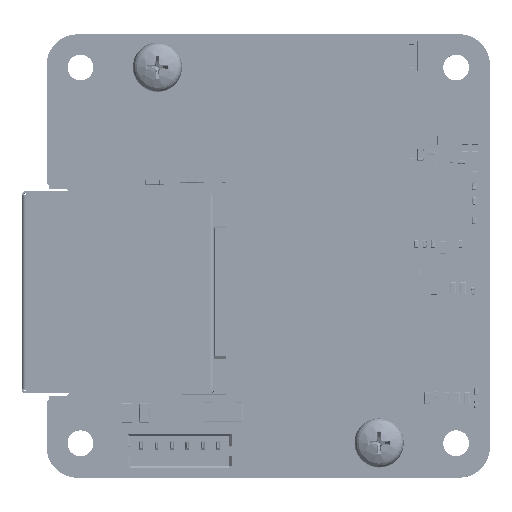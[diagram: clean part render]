
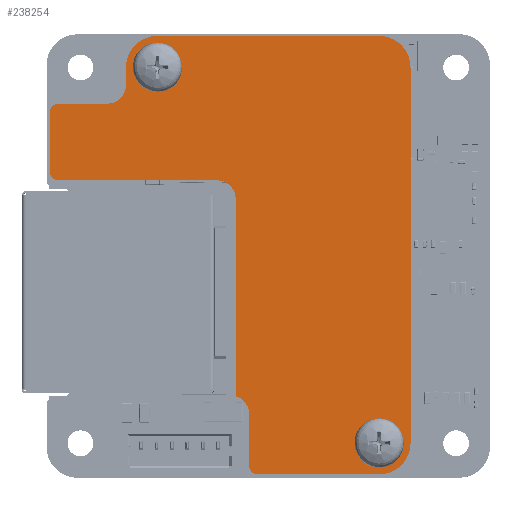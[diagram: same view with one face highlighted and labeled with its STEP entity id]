
A CAD part, top view. The second image highlights one B-rep face of the part: STEP entity #238254.
In plain terms, the highlighted planar face has unit normal (0, 0, 1).
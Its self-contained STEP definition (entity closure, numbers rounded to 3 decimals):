
#986=FACE_BOUND('',#50493,.T.);
#987=FACE_BOUND('',#50494,.T.);
#15673=CIRCLE('',#264794,0.7);
#15674=CIRCLE('',#264797,0.7);
#15675=CIRCLE('',#264800,1.499);
#15676=CIRCLE('',#264803,2.55);
#15677=CIRCLE('',#264806,2.55);
#15678=CIRCLE('',#264809,2.55);
#15679=CIRCLE('',#264812,0.7);
#15680=CIRCLE('',#264815,1.501);
#15681=CIRCLE('',#264818,1.499);
#15682=CIRCLE('',#264821,1.15);
#15683=CIRCLE('',#264823,1.15);
#35524=FACE_OUTER_BOUND('',#50492,.T.);
#50492=EDGE_LOOP('',(#202808,#202809,#202810,#202811,#202812,#202813,#202814,
#202815,#202816,#202817,#202818,#202819,#202820,#202821,#202822,#202823,
#202824,#202825));
#50493=EDGE_LOOP('',(#202826));
#50494=EDGE_LOOP('',(#202827));
#70491=LINE('',#401790,#90474);
#70494=LINE('',#401798,#90477);
#70497=LINE('',#401806,#90480);
#70500=LINE('',#401814,#90483);
#70503=LINE('',#401822,#90486);
#70506=LINE('',#401830,#90489);
#70509=LINE('',#401838,#90492);
#70512=LINE('',#401846,#90495);
#70515=LINE('',#401853,#90498);
#90474=VECTOR('',#336256,1.);
#90477=VECTOR('',#336265,1.);
#90480=VECTOR('',#336274,1.);
#90483=VECTOR('',#336283,1.);
#90486=VECTOR('',#336292,1.);
#90489=VECTOR('',#336301,1.);
#90492=VECTOR('',#336310,1.);
#90495=VECTOR('',#336319,1.);
#90498=VECTOR('',#336328,1.);
#108492=VERTEX_POINT('',#401783);
#108493=VERTEX_POINT('',#401785);
#108494=VERTEX_POINT('',#401789);
#108495=VERTEX_POINT('',#401793);
#108496=VERTEX_POINT('',#401797);
#108497=VERTEX_POINT('',#401801);
#108498=VERTEX_POINT('',#401805);
#108499=VERTEX_POINT('',#401809);
#108500=VERTEX_POINT('',#401813);
#108501=VERTEX_POINT('',#401817);
#108502=VERTEX_POINT('',#401821);
#108503=VERTEX_POINT('',#401825);
#108504=VERTEX_POINT('',#401829);
#108505=VERTEX_POINT('',#401833);
#108506=VERTEX_POINT('',#401837);
#108507=VERTEX_POINT('',#401841);
#108508=VERTEX_POINT('',#401845);
#108509=VERTEX_POINT('',#401849);
#108510=VERTEX_POINT('',#401855);
#108511=VERTEX_POINT('',#401859);
#140102=EDGE_CURVE('',#108492,#108493,#15673,.T.);
#140104=EDGE_CURVE('',#108493,#108494,#70491,.T.);
#140106=EDGE_CURVE('',#108494,#108495,#15674,.T.);
#140108=EDGE_CURVE('',#108495,#108496,#70494,.T.);
#140110=EDGE_CURVE('',#108496,#108497,#15675,.T.);
#140112=EDGE_CURVE('',#108497,#108498,#70497,.T.);
#140114=EDGE_CURVE('',#108498,#108499,#15676,.T.);
#140116=EDGE_CURVE('',#108499,#108500,#70500,.T.);
#140118=EDGE_CURVE('',#108500,#108501,#15677,.T.);
#140120=EDGE_CURVE('',#108501,#108502,#70503,.T.);
#140122=EDGE_CURVE('',#108502,#108503,#15678,.T.);
#140124=EDGE_CURVE('',#108503,#108504,#70506,.T.);
#140126=EDGE_CURVE('',#108504,#108505,#15679,.T.);
#140128=EDGE_CURVE('',#108505,#108506,#70509,.T.);
#140130=EDGE_CURVE('',#108506,#108507,#15680,.T.);
#140132=EDGE_CURVE('',#108507,#108508,#70512,.T.);
#140134=EDGE_CURVE('',#108508,#108509,#15681,.T.);
#140136=EDGE_CURVE('',#108509,#108492,#70515,.T.);
#140137=EDGE_CURVE('',#108510,#108510,#15682,.T.);
#140139=EDGE_CURVE('',#108511,#108511,#15683,.T.);
#202808=ORIENTED_EDGE('',*,*,#140102,.F.);
#202809=ORIENTED_EDGE('',*,*,#140136,.F.);
#202810=ORIENTED_EDGE('',*,*,#140134,.F.);
#202811=ORIENTED_EDGE('',*,*,#140132,.F.);
#202812=ORIENTED_EDGE('',*,*,#140130,.F.);
#202813=ORIENTED_EDGE('',*,*,#140128,.F.);
#202814=ORIENTED_EDGE('',*,*,#140126,.F.);
#202815=ORIENTED_EDGE('',*,*,#140124,.F.);
#202816=ORIENTED_EDGE('',*,*,#140122,.F.);
#202817=ORIENTED_EDGE('',*,*,#140120,.F.);
#202818=ORIENTED_EDGE('',*,*,#140118,.F.);
#202819=ORIENTED_EDGE('',*,*,#140116,.F.);
#202820=ORIENTED_EDGE('',*,*,#140114,.F.);
#202821=ORIENTED_EDGE('',*,*,#140112,.F.);
#202822=ORIENTED_EDGE('',*,*,#140110,.F.);
#202823=ORIENTED_EDGE('',*,*,#140108,.F.);
#202824=ORIENTED_EDGE('',*,*,#140106,.F.);
#202825=ORIENTED_EDGE('',*,*,#140104,.F.);
#202826=ORIENTED_EDGE('',*,*,#140137,.F.);
#202827=ORIENTED_EDGE('',*,*,#140139,.F.);
#209839=PLANE('',#264824);
#238254=ADVANCED_FACE('',(#35524,#986,#987),#209839,.F.);
#264794=AXIS2_PLACEMENT_3D('',#401786,#336251,#336252);
#264797=AXIS2_PLACEMENT_3D('',#401794,#336260,#336261);
#264800=AXIS2_PLACEMENT_3D('',#401802,#336269,#336270);
#264803=AXIS2_PLACEMENT_3D('',#401810,#336278,#336279);
#264806=AXIS2_PLACEMENT_3D('',#401818,#336287,#336288);
#264809=AXIS2_PLACEMENT_3D('',#401826,#336296,#336297);
#264812=AXIS2_PLACEMENT_3D('',#401834,#336305,#336306);
#264815=AXIS2_PLACEMENT_3D('',#401842,#336314,#336315);
#264818=AXIS2_PLACEMENT_3D('',#401850,#336323,#336324);
#264821=AXIS2_PLACEMENT_3D('',#401856,#336331,#336332);
#264823=AXIS2_PLACEMENT_3D('',#401860,#336336,#336337);
#264824=AXIS2_PLACEMENT_3D('',#401862,#336339,#336340);
#336251=DIRECTION('center_axis',(0.,0.,-1.));
#336252=DIRECTION('ref_axis',(0.,-1.,0.));
#336256=DIRECTION('',(0.,1.,0.));
#336260=DIRECTION('center_axis',(0.,0.,-1.));
#336261=DIRECTION('ref_axis',(-1.,0.,0.));
#336265=DIRECTION('',(1.,0.,0.));
#336269=DIRECTION('center_axis',(0.,0.,1.));
#336270=DIRECTION('ref_axis',(-0.001,-1.,
0.));
#336274=DIRECTION('',(0.,1.,0.));
#336278=DIRECTION('center_axis',(0.,0.,-1.));
#336279=DIRECTION('ref_axis',(-1.,0.,0.));
#336283=DIRECTION('',(1.,0.,0.));
#336287=DIRECTION('center_axis',(0.,0.,-1.));
#336288=DIRECTION('ref_axis',(0.,1.,0.));
#336292=DIRECTION('',(0.,-1.,0.));
#336296=DIRECTION('center_axis',(0.,0.,-1.));
#336297=DIRECTION('ref_axis',(1.,0.,0.));
#336301=DIRECTION('',(-1.,0.,0.));
#336305=DIRECTION('center_axis',(0.,0.,-1.));
#336306=DIRECTION('ref_axis',(0.,-1.,0.));
#336310=DIRECTION('',(0.,1.,0.));
#336314=DIRECTION('center_axis',(0.,0.,1.));
#336315=DIRECTION('ref_axis',(1.,0.,0.));
#336319=DIRECTION('',(0.,1.,0.));
#336323=DIRECTION('center_axis',(0.,0.,1.));
#336324=DIRECTION('ref_axis',(1.,-0.001,0.));
#336328=DIRECTION('',(-1.,0.,0.));
#336331=DIRECTION('center_axis',(0.,0.,1.));
#336332=DIRECTION('ref_axis',(1.,0.,0.));
#336336=DIRECTION('center_axis',(0.,0.,1.));
#336337=DIRECTION('ref_axis',(1.,0.,0.));
#336339=DIRECTION('center_axis',(0.,0.,-1.));
#336340=DIRECTION('ref_axis',(-1.,0.,0.));
#401783=CARTESIAN_POINT('',(-26.05,21.325,0.));
#401785=CARTESIAN_POINT('',(-26.75,22.025,0.));
#401786=CARTESIAN_POINT('Origin',(-26.05,22.025,0.));
#401789=CARTESIAN_POINT('',(-26.75,26.85,0.));
#401790=CARTESIAN_POINT('',(-26.75,22.025,0.));
#401793=CARTESIAN_POINT('',(-26.05,27.55,0.));
#401794=CARTESIAN_POINT('Origin',(-26.05,26.85,0.));
#401797=CARTESIAN_POINT('',(-22.05,27.55,0.));
#401798=CARTESIAN_POINT('',(-26.05,27.55,0.));
#401801=CARTESIAN_POINT('',(-20.55,29.05,0.));
#401802=CARTESIAN_POINT('Origin',(-22.049,29.049,0.));
#401805=CARTESIAN_POINT('',(-20.55,30.5,0.));
#401806=CARTESIAN_POINT('',(-20.55,29.05,0.));
#401809=CARTESIAN_POINT('',(-18.,33.05,0.));
#401810=CARTESIAN_POINT('Origin',(-18.,30.5,0.));
#401813=CARTESIAN_POINT('',(0.,33.05,0.));
#401814=CARTESIAN_POINT('',(-18.,33.05,0.));
#401817=CARTESIAN_POINT('',(2.55,30.5,0.));
#401818=CARTESIAN_POINT('Origin',(0.,30.5,0.));
#401821=CARTESIAN_POINT('',(2.55,0.,0.));
#401822=CARTESIAN_POINT('',(2.55,30.5,0.));
#401825=CARTESIAN_POINT('',(0.,-2.55,0.));
#401826=CARTESIAN_POINT('Origin',(0.,0.,
0.));
#401829=CARTESIAN_POINT('',(-9.85,-2.55,0.));
#401830=CARTESIAN_POINT('',(0.,-2.55,0.));
#401833=CARTESIAN_POINT('',(-10.55,-1.85,0.));
#401834=CARTESIAN_POINT('Origin',(-9.85,-1.85,0.));
#401837=CARTESIAN_POINT('',(-10.55,2.35,0.));
#401838=CARTESIAN_POINT('',(-10.55,-1.85,0.));
#401841=CARTESIAN_POINT('',(-11.65,3.796,0.));
#401842=CARTESIAN_POINT('Origin',(-12.051,2.35,0.));
#401845=CARTESIAN_POINT('',(-11.65,19.825,0.));
#401846=CARTESIAN_POINT('',(-11.65,3.796,0.));
#401849=CARTESIAN_POINT('',(-13.15,21.325,0.));
#401850=CARTESIAN_POINT('Origin',(-13.149,19.826,0.));
#401853=CARTESIAN_POINT('',(-13.15,21.325,0.));
#401855=CARTESIAN_POINT('',(-19.15,30.5,0.));
#401856=CARTESIAN_POINT('Origin',(-18.,30.5,0.));
#401859=CARTESIAN_POINT('',(-1.15,0.,0.));
#401860=CARTESIAN_POINT('Origin',(0.,0.,0.));
#401862=CARTESIAN_POINT('Origin',(-8.943,17.735,0.));
